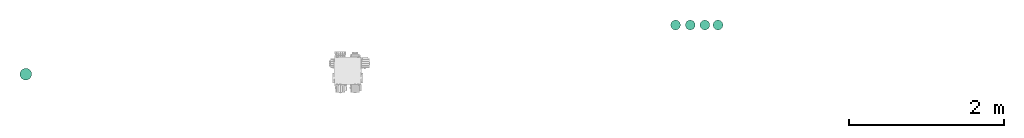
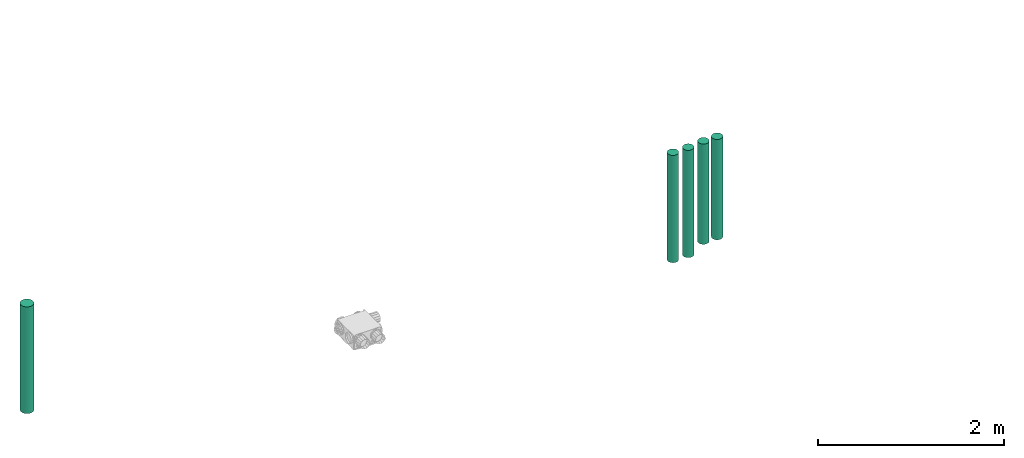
# One storey, incomplete: 5 duct segments.
"""IFC4 building model written with IfcOpenShell, lengths in millimetres."""

from ifc_helpers import new_model, entity, si_unit, converted_unit, derived_unit, direction, frame, origin, place, context, subcontext, project, spatial, indexed_curve, outline, extrude, type_object, element, save


model = new_model("IFC4")

# Units and contexts
model_context = context("Model", 3, precision=0.01, world=origin(), true_north=direction((6.12303176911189e-17, 1.0)))
body_context = subcontext(model_context, "Body", "Model", "MODEL_VIEW")
ifc_project = project(units=[si_unit("LENGTHUNIT", "METRE", prefix="MILLI"), si_unit("AREAUNIT", "SQUARE_METRE"), si_unit("VOLUMEUNIT", "CUBIC_METRE"), converted_unit("PLANEANGLEUNIT", "DEGREE", entity("IfcRatioMeasure", 0.0174532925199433), si_unit("PLANEANGLEUNIT", "RADIAN"), dimensions=[0, 0, 0, 0, 0, 0, 0]), si_unit("MASSUNIT", "GRAM", prefix="KILO"), derived_unit("MASSDENSITYUNIT", [(si_unit("MASSUNIT", "GRAM", prefix="KILO"), 1), (si_unit("LENGTHUNIT", "METRE"), -3)]), si_unit("TIMEUNIT", "SECOND"), si_unit("FREQUENCYUNIT", "HERTZ"), si_unit("THERMODYNAMICTEMPERATUREUNIT", "DEGREE_CELSIUS"), derived_unit("THERMALTRANSMITTANCEUNIT", [(si_unit("MASSUNIT", "GRAM", prefix="KILO"), 1), (si_unit("THERMODYNAMICTEMPERATUREUNIT", "KELVIN"), -1), (si_unit("TIMEUNIT", "SECOND"), -3)]), derived_unit("VOLUMETRICFLOWRATEUNIT", [(si_unit("LENGTHUNIT", "METRE"), 3), (si_unit("TIMEUNIT", "SECOND"), -1)]), si_unit("ELECTRICCURRENTUNIT", "AMPERE"), si_unit("ELECTRICVOLTAGEUNIT", "VOLT"), si_unit("POWERUNIT", "WATT"), si_unit("FORCEUNIT", "NEWTON", prefix="KILO"), si_unit("ILLUMINANCEUNIT", "LUX"), si_unit("LUMINOUSFLUXUNIT", "LUMEN"), si_unit("LUMINOUSINTENSITYUNIT", "CANDELA"), derived_unit("USERDEFINED", [(si_unit("MASSUNIT", "GRAM", prefix="KILO"), -1), (si_unit("LENGTHUNIT", "METRE"), -2), (si_unit("TIMEUNIT", "SECOND"), 3), (si_unit("LUMINOUSFLUXUNIT", "LUMEN"), 1)]), derived_unit("LINEARVELOCITYUNIT", [(si_unit("LENGTHUNIT", "METRE"), 1), (si_unit("TIMEUNIT", "SECOND"), -1)]), si_unit("PRESSUREUNIT", "PASCAL"), derived_unit("USERDEFINED", [(si_unit("LENGTHUNIT", "METRE"), -2), (si_unit("MASSUNIT", "GRAM", prefix="KILO"), 1), (si_unit("TIMEUNIT", "SECOND"), -2)])], contexts=[model_context])

# Site, building, storey
site_placement = place(None, origin())
site = spatial("IfcSite", under=ifc_project, at=site_placement, Name="Default", CompositionType="ELEMENT")
building_placement = place(site_placement, origin())
building = spatial("IfcBuilding", under=site, at=building_placement, CompositionType="ELEMENT")
storey_placement = place(building_placement, frame((0.0, 0.0, 1750.0)))
storey = spatial("IfcBuildingStorey", under=building, at=storey_placement, Name="Position HB3", CompositionType="ELEMENT", Elevation=1750.0)

# Duct segments
duct_segment_type = type_object("IfcDuctSegmentType", Name="Round Duct:Riser pipe", PredefinedType="NOTDEFINED")
duct_segment_1_placement = place(storey_placement, origin())
element("IfcDuctSegment", 1, at=duct_segment_1_placement, inside=storey, type_object=duct_segment_type, Name="Round Duct:Riser pipe", ObjectType="Round Duct:Riser pipe", PredefinedType="NOTDEFINED", context=body_context, shape_type="SweptSolid", body=[
    extrude(outline(indexed_curve([(62.4999999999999, -6.32993885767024e-13), (61.7305212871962, 9.77715406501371), (59.4410322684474, 19.3135621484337), (55.687907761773, 28.3744062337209), (50.5635621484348, 36.736578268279), (44.1941738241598, 44.1941738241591), (36.7365782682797, 50.5635621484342), (28.3744062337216, 55.6879077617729), (19.3135621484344, 59.4410322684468), (9.77715406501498, 61.7305212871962), (9.15603211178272e-14, 62.4999999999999), (-9.7771540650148, 61.7305212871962), (-19.3135621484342, 59.4410322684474), (-28.3744062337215, 55.687907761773), (-36.7365782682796, 50.5635621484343), (-44.1941738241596, 44.1941738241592), (-50.5635621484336, 36.7365782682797), (-55.6879077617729, 28.3744062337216), (-59.4410322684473, 19.3135621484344), (-61.7305212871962, 9.77715406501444), (-62.4999999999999, 9.15603211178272e-14), (-61.7305212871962, -9.77715406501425), (-59.4410322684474, -19.3135621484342), (-55.687907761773, -28.3744062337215), (-50.5635621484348, -36.7365782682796), (-44.1941738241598, -44.1941738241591), (-36.7365782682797, -50.5635621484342), (-28.3744062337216, -55.6879077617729), (-19.3135621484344, -59.4410322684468), (-9.77715406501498, -61.7305212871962), (-9.15603211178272e-14, -62.4999999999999), (9.77715406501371, -61.7305212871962), (19.3135621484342, -59.4410322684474), (28.3744062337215, -55.687907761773), (36.7365782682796, -50.5635621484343), (44.1941738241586, -44.1941738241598), (50.5635621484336, -36.7365782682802), (55.6879077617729, -28.3744062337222), (59.4410322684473, -19.3135621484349), (61.7305212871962, -9.77715406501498), (62.4999999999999, -6.32993885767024e-13)], self_intersect=False)), frame((-6552.90790045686, 3317.24351176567, -86.6936533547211), z_axis=(0.0, 0.0, 1.0), x_axis=(-1.0, 0.0, 0.0)), (0.0, 0.0, 1.0), 1408.90197154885),
])
duct_segment_2_placement = place(storey_placement, origin())
element("IfcDuctSegment", 2, at=duct_segment_2_placement, inside=storey, type_object=duct_segment_type, Name="Round Duct:Riser pipe", ObjectType="Round Duct:Riser pipe", PredefinedType="NOTDEFINED", context=body_context, shape_type="SweptSolid", body=[
    extrude(outline(indexed_curve([(62.4999999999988, -6.32993885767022e-13), (61.7305212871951, 9.77715406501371), (59.4410322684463, 19.3135621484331), (55.6879077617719, 28.3744062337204), (50.5635621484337, 36.7365782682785), (44.1941738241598, 44.194173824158), (36.7365782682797, 50.5635621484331), (28.3744062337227, 55.6879077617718), (19.3135621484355, 59.4410322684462), (9.77715406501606, 61.7305212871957), (1.17442745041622e-12, 62.4999999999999), (-9.77715406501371, 61.7305212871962), (-19.3135621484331, 59.4410322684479), (-28.3744062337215, 55.6879077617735), (-36.7365782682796, 50.5635621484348), (-44.1941738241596, 44.1941738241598), (-50.5635621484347, 36.7365782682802), (-55.687907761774, 28.3744062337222), (-59.4410322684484, 19.3135621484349), (-61.7305212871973, 9.77715406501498), (-62.500000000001, 9.15603211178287e-14), (-61.7305212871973, -9.77715406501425), (-59.4410322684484, -19.3135621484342), (-55.6879077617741, -28.374406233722), (-50.5635621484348, -36.7365782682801), (-44.1941738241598, -44.1941738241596), (-36.7365782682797, -50.5635621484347), (-28.3744062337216, -55.6879077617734), (-19.3135621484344, -59.4410322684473), (-9.77715406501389, -61.7305212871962), (9.91306808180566e-13, -62.4999999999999), (9.7771540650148, -61.7305212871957), (19.3135621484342, -59.4410322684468), (28.3744062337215, -55.6879077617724), (36.7365782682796, -50.5635621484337), (44.1941738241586, -44.1941738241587), (50.5635621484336, -36.7365782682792), (55.6879077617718, -28.3744062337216), (59.4410322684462, -19.3135621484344), (61.7305212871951, -9.77715406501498), (62.4999999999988, -6.32993885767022e-13)], self_intersect=False)), frame((-6362.9079004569, 3317.24351176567, -86.6936533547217), z_axis=(0.0, 0.0, 1.0), x_axis=(-1.0, 0.0, 0.0)), (0.0, 0.0, 1.0), 1408.90197154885),
])
duct_segment_3_placement = place(storey_placement, origin())
element("IfcDuctSegment", 3, at=duct_segment_3_placement, inside=storey, type_object=duct_segment_type, Name="Round Duct:Riser pipe", ObjectType="Round Duct:Riser pipe", PredefinedType="NOTDEFINED", context=body_context, shape_type="SweptSolid", body=[
    extrude(outline(indexed_curve([(62.4999999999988, -9.15603211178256e-14), (61.7305212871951, 9.77715406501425), (59.4410322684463, 19.3135621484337), (55.6879077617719, 28.3744062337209), (50.5635621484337, 36.736578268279), (44.1941738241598, 44.1941738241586), (36.7365782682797, 50.5635621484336), (28.3744062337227, 55.6879077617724), (19.3135621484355, 59.4410322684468), (9.77715406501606, 61.7305212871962), (1.17442745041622e-12, 62.5000000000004), (-9.77715406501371, 61.7305212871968), (-19.3135621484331, 59.4410322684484), (-28.3744062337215, 55.6879077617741), (-36.7365782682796, 50.5635621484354), (-44.1941738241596, 44.1941738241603), (-50.5635621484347, 36.7365782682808), (-55.687907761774, 28.3744062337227), (-59.4410322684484, 19.3135621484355), (-61.7305212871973, 9.77715406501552), (-62.500000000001, 6.32993885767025e-13), (-61.7305212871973, -9.77715406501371), (-59.4410322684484, -19.3135621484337), (-55.6879077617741, -28.3744062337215), (-50.5635621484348, -36.7365782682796), (-44.1941738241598, -44.1941738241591), (-36.7365782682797, -50.5635621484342), (-28.3744062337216, -55.6879077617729), (-19.3135621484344, -59.4410322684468), (-9.77715406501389, -61.7305212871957), (9.91306808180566e-13, -62.4999999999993), (9.7771540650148, -61.7305212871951), (19.3135621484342, -59.4410322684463), (28.3744062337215, -55.6879077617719), (36.7365782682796, -50.5635621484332), (44.1941738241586, -44.1941738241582), (50.5635621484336, -36.7365782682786), (55.6879077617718, -28.3744062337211), (59.4410322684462, -19.3135621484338), (61.7305212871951, -9.77715406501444), (62.4999999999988, -9.15603211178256e-14)], self_intersect=False)), frame((-6173.99620995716, 3317.24351176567, 22.3063466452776), z_axis=(0.0, 0.0, 1.0), x_axis=(-1.0, 0.0, 0.0)), (0.0, 0.0, 1.0), 1316.37500000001),
])
duct_segment_4_placement = place(storey_placement, origin())
element("IfcDuctSegment", 4, at=duct_segment_4_placement, inside=storey, type_object=duct_segment_type, Name="Round Duct:Riser pipe", ObjectType="Round Duct:Riser pipe", PredefinedType="NOTDEFINED", context=body_context, shape_type="SweptSolid", body=[
    extrude(outline(indexed_curve([(62.4999999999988, -6.32993885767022e-13), (61.7305212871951, 9.77715406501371), (59.4410322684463, 19.3135621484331), (55.687907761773, 28.3744062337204), (50.5635621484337, 36.7365782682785), (44.1941738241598, 44.194173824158), (36.7365782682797, 50.5635621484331), (28.3744062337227, 55.6879077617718), (19.3135621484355, 59.4410322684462), (9.77715406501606, 61.7305212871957), (1.17442745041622e-12, 62.4999999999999), (-9.77715406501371, 61.7305212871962), (-19.3135621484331, 59.4410322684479), (-28.3744062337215, 55.6879077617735), (-36.7365782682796, 50.5635621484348), (-44.1941738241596, 44.1941738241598), (-50.5635621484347, 36.7365782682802), (-55.687907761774, 28.3744062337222), (-59.4410322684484, 19.3135621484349), (-61.7305212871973, 9.77715406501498), (-62.500000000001, 9.15603211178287e-14), (-61.7305212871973, -9.77715406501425), (-59.4410322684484, -19.3135621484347), (-55.6879077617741, -28.374406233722), (-50.5635621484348, -36.7365782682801), (-44.1941738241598, -44.1941738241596), (-36.7365782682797, -50.5635621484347), (-28.3744062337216, -55.6879077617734), (-19.3135621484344, -59.4410322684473), (-9.77715406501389, -61.7305212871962), (9.91306808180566e-13, -62.4999999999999), (9.7771540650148, -61.7305212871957), (19.3135621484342, -59.4410322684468), (28.3744062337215, -55.6879077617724), (36.7365782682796, -50.5635621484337), (44.1941738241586, -44.1941738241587), (50.5635621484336, -36.7365782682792), (55.6879077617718, -28.3744062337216), (59.4410322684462, -19.3135621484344), (61.7305212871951, -9.77715406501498), (62.4999999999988, -6.32993885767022e-13)], self_intersect=False)), frame((-6004.62320995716, 3317.24351176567, 22.3063466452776), z_axis=(0.0, 0.0, 1.0), x_axis=(-1.0, 0.0, 0.0)), (0.0, 0.0, 1.0), 1317.37500000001),
])
duct_segment_5_placement = place(storey_placement, origin())
element("IfcDuctSegment", 5, at=duct_segment_5_placement, inside=storey, type_object=duct_segment_type, Name="Round Duct:Riser pipe", ObjectType="Round Duct:Riser pipe", PredefinedType="NOTDEFINED", context=body_context, shape_type="SweptSolid", body=[
    extrude(outline(indexed_curve([(75.0000000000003, -2.94782076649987e-14), (74.0766255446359, 11.7325848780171), (71.3292387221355, 23.1762745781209), (66.825489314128, 34.0492874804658), (60.67627457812, 44.0838939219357), (53.0330085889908, 53.0330085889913), (44.0838939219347, 60.6762745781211), (34.0492874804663, 66.8254893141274), (23.176274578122, 71.3292387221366), (11.7325848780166, 74.0766255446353), (2.94782076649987e-14, 75.0000000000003), (-11.7325848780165, 74.0766255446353), (-23.176274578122, 71.3292387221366), (-34.0492874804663, 66.8254893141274), (-44.0838939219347, 60.6762745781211), (-53.0330085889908, 53.0330085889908), (-60.6762745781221, 44.0838939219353), (-66.825489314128, 34.0492874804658), (-71.3292387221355, 23.176274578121), (-74.0766255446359, 11.7325848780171), (-75.0000000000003, 2.94782076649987e-14), (-74.0766255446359, -11.7325848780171), (-71.3292387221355, -23.1762745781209), (-66.825489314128, -34.0492874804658), (-60.6762745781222, -44.0838939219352), (-53.0330085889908, -53.0330085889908), (-44.0838939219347, -60.6762745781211), (-34.0492874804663, -66.8254893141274), (-23.176274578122, -71.3292387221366), (-11.7325848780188, -74.0766255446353), (-2.94782076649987e-14, -75.0000000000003), (11.7325848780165, -74.0766255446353), (23.1762745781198, -71.3292387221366), (34.0492874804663, -66.825489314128), (44.0838939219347, -60.6762745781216), (53.0330085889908, -53.0330085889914), (60.67627457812, -44.0838939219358), (66.825489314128, -34.0492874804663), (71.3292387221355, -23.1762745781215), (74.0766255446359, -11.7325848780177), (75.0000000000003, -2.94782076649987e-14)], self_intersect=False)), frame((-14940.8881114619, 2682.24351176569, 1263.51597154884), z_axis=(0.0, 0.0, 1.0), x_axis=(-1.0, 0.0, 0.0)), (0.0, 0.0, 1.0), 1400.0),
])

save(model, "model.ifc")
